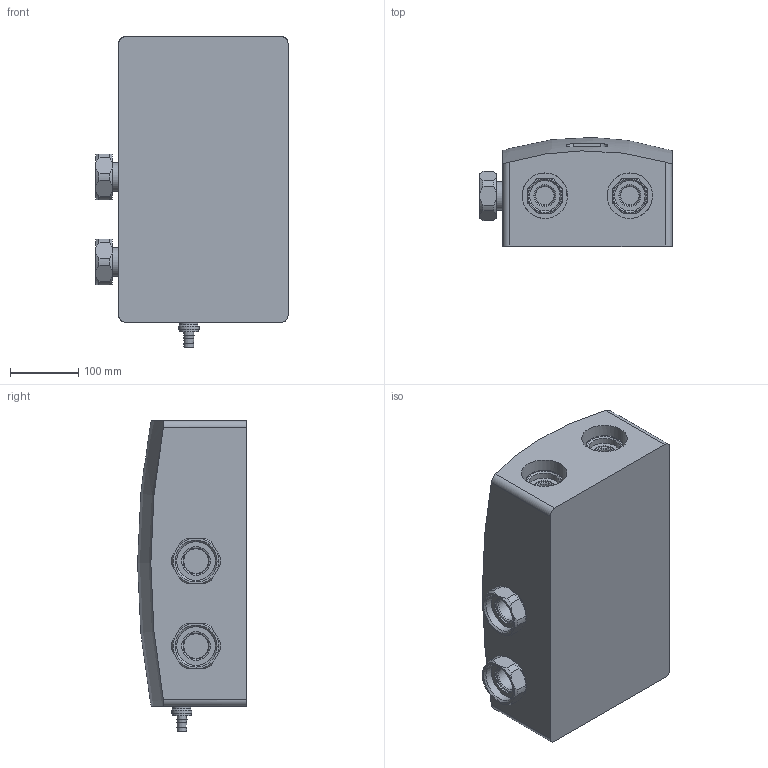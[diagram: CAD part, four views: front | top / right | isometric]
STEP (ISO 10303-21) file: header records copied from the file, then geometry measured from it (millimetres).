
FILE_DESCRIPTION(/* description */ (''),/* implementation_level */ '2;1');
FILE_NAME(/* name */ '\\dataserver\data\Meibes\Inventor\Meiflow S BG\66392_31_meiflow_s_bg.stp',/* time_stamp */ '2023-10-12T14:10:33+02:00',/* author */ ('kasius'),/* organization */ (''),/* preprocessor_version */ 'ST-DEVELOPER v17',/* originating_system */ 'Autodesk Inventor 2018',/* authorisation */ '');
FILE_SCHEMA (('AUTOMOTIVE_DESIGN { 1 0 10303 214 3 1 1 }'));
Length unit declared in the file: millimetre
Products named in the file (1): 66392_31_meiflow_s_bg
Bounding box: 282.35 x 159.92 x 457.02 mm (x, y, z)
Volume: 14941880.7 mm3; surface area: 510066.4 mm2
Topology: 6 solids, 6 shells, 211 faces, 554 edges, 374 vertices
Faces by surface type: cone 75, plane 70, cylinder 65, torus 1
Full cylindrical faces by diameter (mm): 9.5 x1, 16.5 x1, 26.44 x1, 27.2 x2, 28 x1, 29.97 x1, 32 x2, 33.7 x2, 35.895 x2, 41.996 x2, 42.3 x2, 42.396 x2, 44.8 x2, 45 x2, 53.297 x2, 56.657 x2, 67 x2
Entity records: 6912 total; most frequent: CARTESIAN_POINT 1522, DIRECTION 1122, ORIENTED_EDGE 1108, EDGE_CURVE 554, AXIS2_PLACEMENT_3D 482, VERTEX_POINT 374, CIRCLE 270, EDGE_LOOP 242
